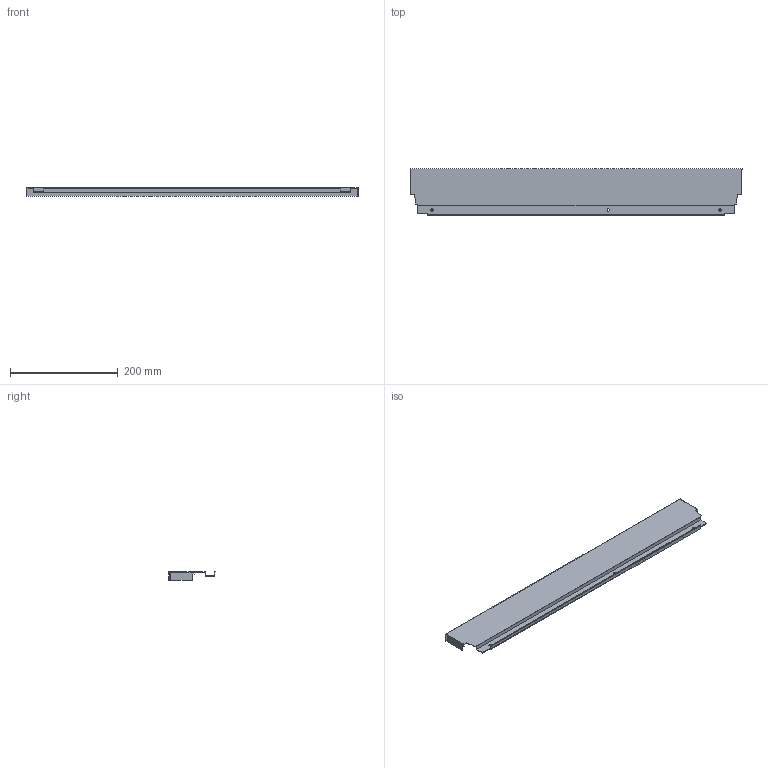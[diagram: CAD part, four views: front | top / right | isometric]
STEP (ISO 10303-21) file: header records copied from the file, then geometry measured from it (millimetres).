
FILE_DESCRIPTION (( 'STEP AP214' ), '1' );
FILE_NAME ('_DWD_XP Stahlrückwand_H86_KAB700_S17.step', '2010-07-08T12:10:10', ( 'grass' ), ( '' ), 'SwSTEP 2.0', 'SolidWorks 2010', '' );
FILE_SCHEMA (( 'AUTOMOTIVE_DESIGN' ));
Length unit declared in the file: millimetre
Products named in the file (1): _DWD_XP Stahlrückwand_H86_KAB700_S17
Bounding box: 617 x 85.79 x 16 mm (x, y, z)
Volume: 65867.9 mm3; surface area: 143335.6 mm2
Topology: 1 solids, 1 shells, 50 faces, 144 edges, 96 vertices
Faces by surface type: plane 44, cylinder 6
Entity records: 1666 total; most frequent: CARTESIAN_POINT 291, ORIENTED_EDGE 288, DIRECTION 258, EDGE_CURVE 144, VECTOR 132, LINE 132, VERTEX_POINT 96, AXIS2_PLACEMENT_3D 63
